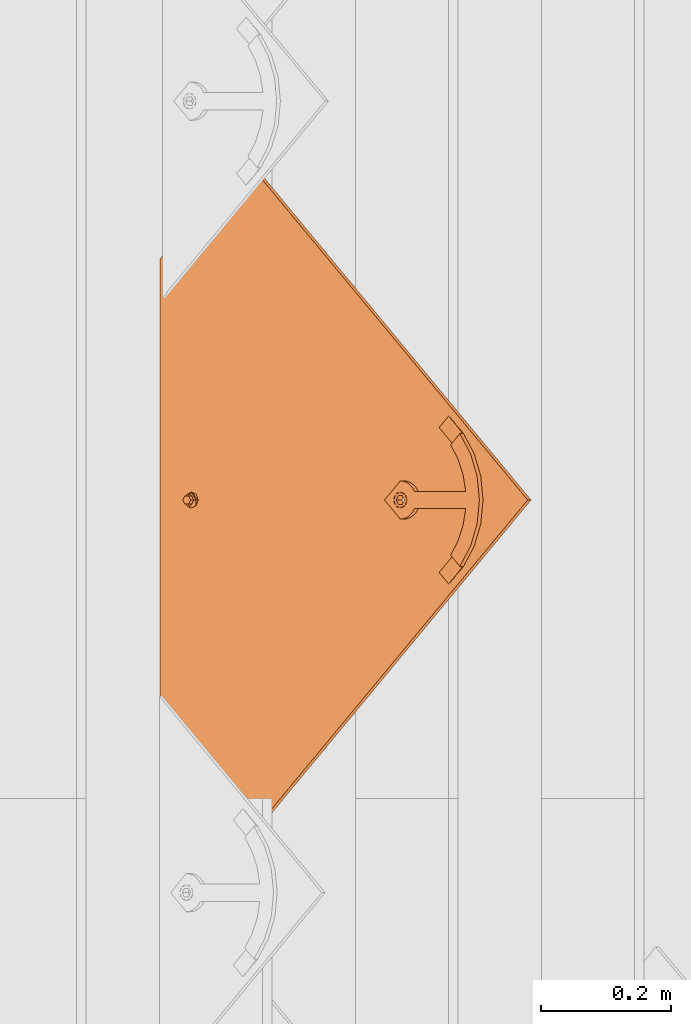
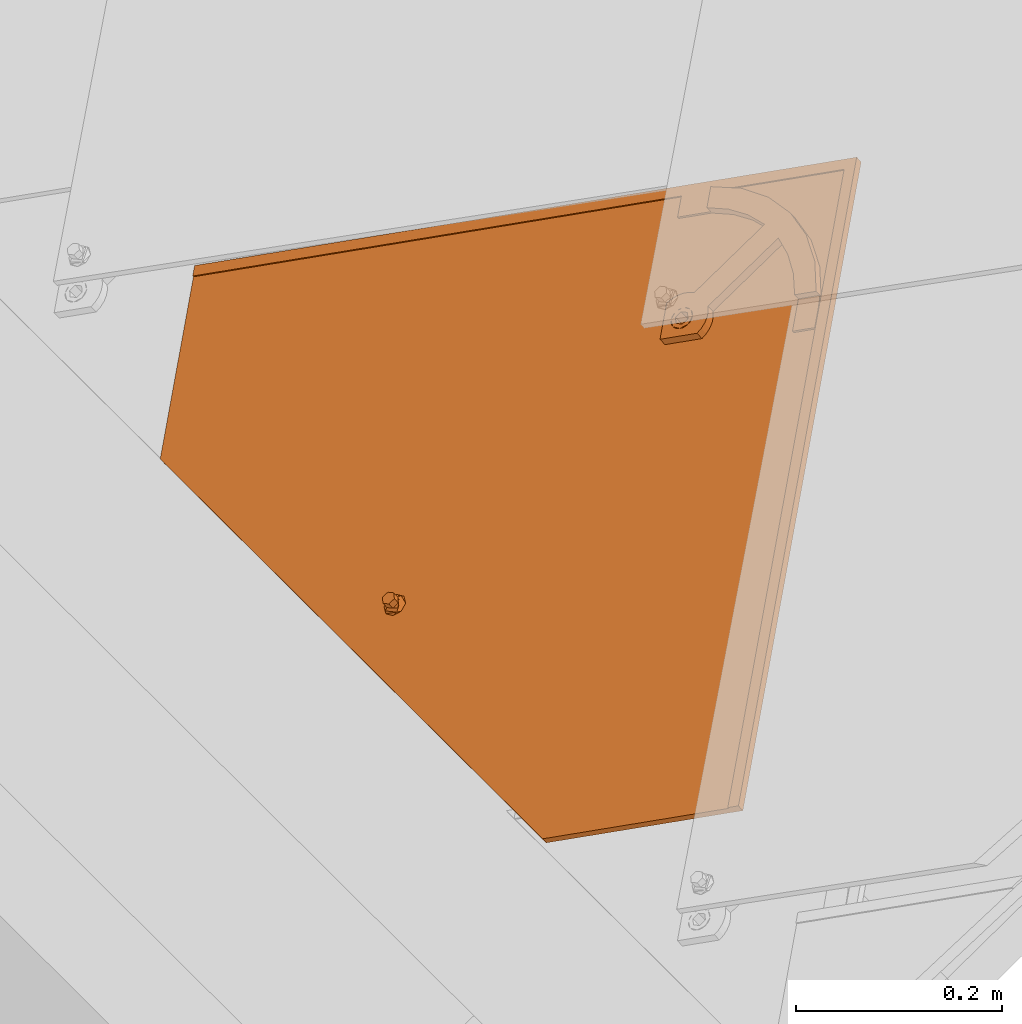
# One storey, part 9 of 133: 1 proxy.
"""IFC2X3 building model written with IfcOpenShell, lengths in millimetres."""

import ifcopenshell
import ifcopenshell.guid

model = None  # the IFC model being written
_history = None  # IfcOwnerHistory: only IFC2X3 demands one
_inside = {}  # id of a spatial element -> (the spatial element, [elements in it])
_under = {}  # id of a project, library or spatial element -> (it, [spatial elements below it])
_declared = {}  # id of a project -> (the project, [libraries it declares])
_typed = {}  # id of a type object -> (the type object, [elements of that type])
_made_of = {}  # id of a material, layer set ... -> (it, [elements and type objects made of it])


def new_model(schema):
    """Start an empty IFC model of exactly this schema.

    Asked for "IFC4X3", IfcOpenShell would pick the latest addendum, in which some entities
    have other attributes; the version numbers below select the first issue.
    IFC2X3 requires an IfcOwnerHistory on every rooted entity: one is made here for all.
    """
    global model, _history
    if schema == "IFC4X3":
        model = ifcopenshell.file(schema_version=(4, 3, 0, 0))
    else:
        model = ifcopenshell.file(schema=schema)
    _inside.clear()
    _under.clear()
    _declared.clear()
    _typed.clear()
    _made_of.clear()
    _history = None
    if model.schema == "IFC2X3":
        org = make("IfcOrganization", Name="unknown")
        user = make(
            "IfcPersonAndOrganization",
            ThePerson=make("IfcPerson", FamilyName="unknown"),
            TheOrganization=org,
        )
        app = make(
            "IfcApplication",
            ApplicationDeveloper=org,
            Version="unknown",
            ApplicationFullName="unknown",
            ApplicationIdentifier="unknown",
        )
        _history = make(
            "IfcOwnerHistory",
            OwningUser=user,
            OwningApplication=app,
            ChangeAction="ADDED",
            CreationDate=0,
        )
    return model


def make(cls, **values):
    """One entity of the class cls with the attributes given. An attribute that is None is left unset."""
    return model.create_entity(
        cls, **{name: value for name, value in values.items() if value is not None}
    )


def entity(cls, *values):
    """Any entity or typed value of the class cls, its attributes in the order of the schema. None: left unset."""
    e = model.create_entity(cls)
    for i, value in enumerate(values):
        if value is not None:
            e[i] = value
    return e


def rooted(cls, **values):
    """An entity with a GlobalId (a new one), such as an element, a storey or a relation."""
    return make(cls, GlobalId=ifcopenshell.guid.new(), OwnerHistory=_history, **values)


def si_unit(unit_type, name, prefix=None):
    """IfcSIUnit, for example si_unit("LENGTHUNIT", "METRE", prefix="MILLI")."""
    return make("IfcSIUnit", UnitType=unit_type, Prefix=prefix, Name=name)


def converted_unit(unit_type, name, factor, base, dimensions=None, offset=None):
    """IfcConversionBasedUnit, such as the inch: factor (a typed value) times the base unit."""
    return make(
        "IfcConversionBasedUnit"
        if offset is None
        else "IfcConversionBasedUnitWithOffset",
        ConversionOffset=offset,
        Dimensions=None
        if dimensions is None
        else entity("IfcDimensionalExponents", *dimensions),
        UnitType=unit_type,
        Name=name,
        ConversionFactor=make(
            "IfcMeasureWithUnit", ValueComponent=factor, UnitComponent=base
        ),
    )


def derived_unit(unit_type, elements):
    """IfcDerivedUnit: a product of units, each with its exponent."""
    return make(
        "IfcDerivedUnit",
        Elements=[
            make("IfcDerivedUnitElement", Unit=unit, Exponent=power)
            for unit, power in elements
        ],
        UnitType=unit_type,
    )


def assignment(units):
    """IfcUnitAssignment: the units of a project."""
    return None if units is None else make("IfcUnitAssignment", Units=units)


def point(xyz):
    """IfcCartesianPoint."""
    return None if xyz is None else make("IfcCartesianPoint", Coordinates=xyz)


def direction(xyz):
    """IfcDirection."""
    return None if xyz is None else make("IfcDirection", DirectionRatios=xyz)


def frame(location, z_axis=None, x_axis=None):
    """IfcAxis2Placement3D, a coordinate frame: its origin and axes. An axis left out is left unset."""
    return make(
        "IfcAxis2Placement3D",
        Location=point(location),
        Axis=direction(z_axis),
        RefDirection=direction(x_axis),
    )


def origin():
    """The frame at (0, 0, 0) with its axes left unset."""
    return frame((0.0, 0.0, 0.0))


def place(relative_to, where):
    """IfcLocalPlacement: puts the frame where relative to a parent placement (None: the world)."""
    return make(
        "IfcLocalPlacement", PlacementRelTo=relative_to, RelativePlacement=where
    )


def context(
    kind, dimensions, precision=None, world=None, true_north=None, identifier=None
):
    """IfcGeometricRepresentationContext, for example the 3D "Model" context."""
    return make(
        "IfcGeometricRepresentationContext",
        ContextIdentifier=identifier,
        ContextType=kind,
        CoordinateSpaceDimension=dimensions,
        Precision=precision,
        WorldCoordinateSystem=world,
        TrueNorth=true_north,
    )


def subcontext(parent, identifier, kind, view, scale=None):
    """IfcGeometricRepresentationSubContext, for example "Body" below "Model"."""
    return make(
        "IfcGeometricRepresentationSubContext",
        ContextIdentifier=identifier,
        ContextType=kind,
        ParentContext=parent,
        TargetScale=scale,
        TargetView=view,
    )


def project(units=None, contexts=None):
    """IfcProject with its units and contexts."""
    return rooted(
        "IfcProject",
        Name="project",
        RepresentationContexts=contexts,
        UnitsInContext=assignment(units),
    )


def spatial(cls, under=None, at=None, **own):
    """A site, building, storey or space (cls), placed at a placement, below another one or the project."""
    s = rooted(cls, ObjectPlacement=at, **own)
    if under is not None:
        _under.setdefault(under.id(), (under, []))[1].append(s)
    return s


def faces_of(points, faces, orient=None, outer=None):
    """IfcFace entities. A face is a list of loops; a loop is a list of indices into points, from 0.

    orient and outer hold one flag for each loop. By default every Orientation is true, the
    first loop of a face is its IfcFaceOuterBound and the others are IfcFaceBound.
    """
    made = []
    for i, loops in enumerate(faces):
        bounds = []
        for j, loop in enumerate(loops):
            is_outer = j == 0 if outer is None else outer[i][j]
            bounds.append(
                make(
                    "IfcFaceOuterBound" if is_outer else "IfcFaceBound",
                    Bound=make("IfcPolyLoop", Polygon=[points[k] for k in loop]),
                    Orientation=True if orient is None else orient[i][j],
                )
            )
        made.append(make("IfcFace", Bounds=bounds))
    return made


def faceted_brep(points, faces, orient=None, outer=None, voids=None):
    """IfcFacetedBrep: a solid bounded by flat faces; with voids (closed shells), ...WithVoids."""
    shared = [point(p) for p in points]
    hull = make("IfcClosedShell", CfsFaces=faces_of(shared, faces, orient, outer))
    if voids is None:
        return make("IfcFacetedBrep", Outer=hull)
    return make(
        "IfcFacetedBrepWithVoids",
        Outer=hull,
        Voids=[
            make(cls, CfsFaces=faces_of(shared, fs, o, b)) for cls, fs, o, b in voids
        ],
    )


def shape(context_of_items, identifier, shape_type, items):
    """IfcShapeRepresentation: the items that make up one representation, for example the "Body"."""
    return make(
        "IfcShapeRepresentation",
        ContextOfItems=context_of_items,
        RepresentationIdentifier=identifier,
        RepresentationType=shape_type,
        Items=items,
    )


def source(mapping_origin, context_of_items, identifier, shape_type, items):
    """IfcRepresentationMap: a shape defined once, which mapped items show again and again."""
    return make(
        "IfcRepresentationMap",
        MappingOrigin=mapping_origin,
        MappedRepresentation=shape(context_of_items, identifier, shape_type, items),
    )


def transform(
    local_origin,
    x_axis=None,
    y_axis=None,
    z_axis=None,
    scale=None,
    scale2=None,
    scale3=None,
    uniform=True,
):
    """IfcCartesianTransformationOperator3D, or its non-uniform kind. x_axis, y_axis, z_axis: its Axis1, 2, 3."""
    if uniform:
        return make(
            "IfcCartesianTransformationOperator3D",
            Axis1=direction(x_axis),
            Axis2=direction(y_axis),
            LocalOrigin=point(local_origin),
            Scale=scale,
            Axis3=direction(z_axis),
        )
    return make(
        "IfcCartesianTransformationOperator3DnonUniform",
        Axis1=direction(x_axis),
        Axis2=direction(y_axis),
        LocalOrigin=point(local_origin),
        Scale=scale,
        Axis3=direction(z_axis),
        Scale2=scale2,
        Scale3=scale3,
    )


def mapped(mapping_source, mapping_target):
    """IfcMappedItem: shows the shape of a source again, moved by a transform."""
    return make(
        "IfcMappedItem", MappingSource=mapping_source, MappingTarget=mapping_target
    )


def material(Name=None, Category=None):
    """IfcMaterial."""
    return make("IfcMaterial", Name=Name, Category=Category)


def material_list(materials):
    """IfcMaterialList."""
    return make("IfcMaterialList", Materials=materials)


def made_of(thing, what):
    """Note that an element or type object is made of a material, layer set ...; save() writes the relation."""
    if what is not None:
        _made_of.setdefault(what.id(), (what, []))[1].append(thing)
    return thing


def type_object(cls, material=None, **own):
    """A type object (cls), such as IfcWallType, which elements share."""
    return made_of(rooted(cls, **own), material)


def type_shapes(of_type, sources):
    """Give a type object the sources (RepresentationMaps) that its elements show as mapped items."""
    of_type.RepresentationMaps = sources


def element(
    cls,
    number,
    at=None,
    inside=None,
    cuts=None,
    type_object=None,
    material=None,
    context=None,
    identifier="Body",
    shape_type=None,
    held_by="IfcProductDefinitionShape",
    body=None,
    shapes=None,
    **own,
):
    """One element of the class cls, such as IfcWall. Its Tag is "e" and its number.

    at: its placement. inside: the storey or other place that contains it. cuts: it is an
    opening in that element (IfcRelVoidsElement). A single representation is given by context,
    identifier, shape_type and body (its items); several are given by shapes. held_by: the class
    of the entity that holds the representations. save() writes the other relations.
    """
    e = rooted(cls, Tag="e%d" % number, ObjectPlacement=at, **own)
    if body is not None:
        shapes = [shape(context, identifier, shape_type, body)]
    if shapes is not None:
        e.Representation = make(held_by, Representations=shapes)
    if inside is not None:
        _inside.setdefault(inside.id(), (inside, []))[1].append(e)
    if cuts is not None:
        rooted(
            "IfcRelVoidsElement", RelatingBuildingElement=cuts, RelatedOpeningElement=e
        )
    if type_object is not None:
        _typed.setdefault(type_object.id(), (type_object, []))[1].append(e)
    return made_of(e, material)


def aggregate(whole, parts):
    """IfcRelAggregates: a whole, such as a stair, and the parts it consists of."""
    return rooted("IfcRelAggregates", RelatingObject=whole, RelatedObjects=parts)


def save(model, path):
    """Write the relations noted so far, then the file.

    IfcRelAggregates (storeys below a building ...), IfcRelContainedInSpatialStructure (elements
    in a storey), IfcRelDefinesByType, IfcRelAssociatesMaterial and IfcRelDeclares: one each for
    every whole, place, type object, material and project.
    """
    for whole, parts in _under.values():
        aggregate(whole, parts)
    for where, things in _inside.values():
        rooted(
            "IfcRelContainedInSpatialStructure",
            RelatedElements=things,
            RelatingStructure=where,
        )
    for kind, things in _typed.values():
        rooted("IfcRelDefinesByType", RelatedObjects=things, RelatingType=kind)
    for what, things in _made_of.values():
        rooted("IfcRelAssociatesMaterial", RelatedObjects=things, RelatingMaterial=what)
    for by, libraries in _declared.values():
        rooted("IfcRelDeclares", RelatingContext=by, RelatedDefinitions=libraries)
    model.write(path)


model = new_model("IFC2X3")

# Units and contexts
model_context = context("Model", 3, precision=0.01, world=origin(), true_north=direction((6.12303176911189e-17, 1.0)))
body_context = subcontext(model_context, "Body", "Model", "MODEL_VIEW")
ifc_project = project(units=[si_unit("LENGTHUNIT", "METRE", prefix="MILLI"), si_unit("AREAUNIT", "SQUARE_METRE"), si_unit("VOLUMEUNIT", "CUBIC_METRE"), converted_unit("PLANEANGLEUNIT", "DEGREE", entity("IfcRatioMeasure", 0.0174532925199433), si_unit("PLANEANGLEUNIT", "RADIAN"), dimensions=[0, 0, 0, 0, 0, 0, 0]), si_unit("MASSUNIT", "GRAM", prefix="KILO"), derived_unit("MASSDENSITYUNIT", [(si_unit("MASSUNIT", "GRAM", prefix="KILO"), 1), (si_unit("LENGTHUNIT", "METRE"), -3)]), si_unit("TIMEUNIT", "SECOND"), si_unit("FREQUENCYUNIT", "HERTZ"), si_unit("THERMODYNAMICTEMPERATUREUNIT", "DEGREE_CELSIUS"), derived_unit("THERMALTRANSMITTANCEUNIT", [(si_unit("MASSUNIT", "GRAM", prefix="KILO"), 1), (si_unit("THERMODYNAMICTEMPERATUREUNIT", "KELVIN"), -1), (si_unit("TIMEUNIT", "SECOND"), -3)]), derived_unit("VOLUMETRICFLOWRATEUNIT", [(si_unit("LENGTHUNIT", "METRE"), 3), (si_unit("TIMEUNIT", "SECOND"), -1)]), si_unit("ELECTRICCURRENTUNIT", "AMPERE"), si_unit("ELECTRICVOLTAGEUNIT", "VOLT"), si_unit("POWERUNIT", "WATT"), si_unit("FORCEUNIT", "NEWTON", prefix="KILO"), si_unit("ILLUMINANCEUNIT", "LUX"), si_unit("LUMINOUSFLUXUNIT", "LUMEN"), si_unit("LUMINOUSINTENSITYUNIT", "CANDELA"), derived_unit("USERDEFINED", [(si_unit("MASSUNIT", "GRAM", prefix="KILO"), -1), (si_unit("LENGTHUNIT", "METRE"), -2), (si_unit("TIMEUNIT", "SECOND"), 3), (si_unit("LUMINOUSFLUXUNIT", "LUMEN"), 1)]), derived_unit("LINEARVELOCITYUNIT", [(si_unit("LENGTHUNIT", "METRE"), 1), (si_unit("TIMEUNIT", "SECOND"), -1)]), si_unit("PRESSUREUNIT", "PASCAL"), derived_unit("USERDEFINED", [(si_unit("LENGTHUNIT", "METRE"), -2), (si_unit("MASSUNIT", "GRAM", prefix="KILO"), 1), (si_unit("TIMEUNIT", "SECOND"), -2)])], contexts=[model_context])

# Site, building, storey
site_placement = place(None, origin())
site = spatial("IfcSite", under=ifc_project, at=site_placement, Name="Default", CompositionType="ELEMENT")
building_placement = place(site_placement, origin())
building = spatial("IfcBuilding", under=site, at=building_placement, CompositionType="ELEMENT")
storey_placement = place(building_placement, origin())
storey = spatial("IfcBuildingStorey", under=building, at=storey_placement, Name="Level 1", CompositionType="ELEMENT", Elevation=0.0)

# Proxy
ifc_material_1 = material(Name="Rubber - Sunstyle - Black")
ifc_material_2 = material(Name="Glass - Sunstyle - Tainted Black")
ifc_material_list_1 = material_list([ifc_material_1, ifc_material_2])
ifc_material_list_2 = material_list([ifc_material_1, ifc_material_2])
building_element_proxy_type = type_object("IfcBuildingElementProxyType", Name="Shingle Bottom - Black", PredefinedType="NOTDEFINED", material=ifc_material_list_2)
shared_shape = source(origin(), body_context, "Body", "Brep", [
    faceted_brep([(0.0, -1.79273515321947, -4.01619789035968), (-5.7742028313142, -5.12600528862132, -3.96037390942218), (-5.77420283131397, -4.75769619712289, 18.0314954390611), (0.0, -1.42442606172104, 17.9756714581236), (-5.77420283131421, -11.792545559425, -3.84872594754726), (-5.77420283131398, -11.4242364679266, 18.143143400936), (0.0, -15.1258156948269, -3.79290196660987), (0.0, -14.7575066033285, 18.1989673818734), (5.77420283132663, -11.7925455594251, -3.84872594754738), (5.77420283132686, -11.4242364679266, 18.1431434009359), (5.77420283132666, -5.12600528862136, -3.96037390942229), (5.77420283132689, -4.75769619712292, 18.031495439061), (-8.60370416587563, -16.6934641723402, 18.2313898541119), (0.0, -20.2567354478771, 18.2910657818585), (-12.1674751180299, -8.09096633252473, 18.0873194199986), (-8.60370416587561, 0.511531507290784, 17.9432489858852), (0.0, 4.07480278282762, 17.8835730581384), (8.60370416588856, 0.511531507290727, 17.9432489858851), (12.1674751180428, -8.09096633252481, 18.0873194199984), (8.60370416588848, -16.6934641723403, 18.2313898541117), (-11.4302228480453, -6.71737066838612, 20.4858706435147), (-9.77051349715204, -8.02009729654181, 22.3189355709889), (0.0, -0.706876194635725, 22.9603444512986), (0.0, 0.533621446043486, 22.3799978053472), (0.0, 2.69117229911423, 21.3706227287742), (-6.32324569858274, -4.35709193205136, 23.021476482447), (-6.32324569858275, -11.6575234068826, 23.1437405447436), (0.0, -18.7571148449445, 21.7298281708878), (0.0, -15.3077391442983, 23.2048725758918), (10.9851748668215, -11.808022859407, 20.3827540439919), (10.123850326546, -8.02413622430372, 22.0777687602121), (6.32324569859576, -4.3570919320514, 23.0214764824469), (6.32324569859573, -11.6575234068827, 23.1437405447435), (-6.32324569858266, -11.5234949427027, 31.146628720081), (0.0, -15.1737106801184, 31.2077607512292), (0.0, -7.8732792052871, 31.0854966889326), (-6.32324569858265, -4.22306346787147, 31.0243646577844), (6.32324569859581, -11.5234949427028, 31.1466287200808), (6.32324569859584, -4.22306346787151, 31.0243646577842), (0.0, -0.57284773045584, 30.963232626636), (0.0, -8.45927542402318, -3.90454992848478)], [[[0, 1, 2, 3]], [[1, 4, 5, 2]], [[4, 6, 7, 5]], [[6, 8, 9, 7]], [[8, 10, 11, 9]], [[10, 0, 3, 11]], [[12, 7, 13]], [[7, 12, 5]], [[14, 5, 12]], [[5, 14, 2]], [[15, 2, 14]], [[3, 2, 15]], [[15, 16, 3]], [[16, 17, 3]], [[11, 3, 17]], [[11, 17, 18]], [[9, 11, 18]], [[18, 19, 9]], [[7, 9, 19]], [[19, 13, 7]], [[15, 20, 16]], [[21, 22, 23, 24]], [[22, 21, 25]], [[20, 14, 12]], [[15, 14, 20]], [[25, 21, 26]], [[20, 24, 16]], [[12, 13, 27]], [[12, 27, 20]], [[21, 28, 26]], [[21, 27, 28]], [[20, 21, 24]], [[20, 27, 21]], [[19, 29, 13]], [[30, 23, 31]], [[30, 28, 27]], [[24, 23, 30]], [[29, 27, 13]], [[19, 18, 29]], [[29, 30, 27]], [[29, 17, 24]], [[24, 17, 16]], [[31, 32, 30]], [[23, 22, 31]], [[28, 30, 32]], [[29, 24, 30]], [[29, 18, 17]], [[33, 34, 35]], [[35, 36, 33]], [[34, 37, 35]], [[38, 35, 37]], [[35, 38, 39]], [[35, 39, 36]], [[40, 6, 4]], [[4, 1, 40]], [[1, 0, 40]], [[40, 8, 6]], [[0, 10, 40]], [[8, 40, 10]], [[22, 25, 36, 39]], [[25, 26, 33, 36]], [[26, 28, 34, 33]], [[28, 32, 37, 34]], [[32, 31, 38, 37]], [[31, 22, 39, 38]]]),
    faceted_brep([(0.0, 372.824876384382, 20.3195200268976), (0.0, 377.324245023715, 20.2441667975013), (-8.60370416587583, 376.388147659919, 20.2598440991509), (8.60370416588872, 376.388147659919, 20.2598440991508), (6.64022859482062, 381.157445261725, 20.1799702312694), (12.1674751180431, 384.990645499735, 20.1157736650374), (6.64022859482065, 388.823845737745, 20.0515770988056), (8.6037041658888, 393.59314333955, 19.9717032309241), (0.0, 392.657045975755, 19.9873805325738), (0.0, 397.156414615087, 19.9120273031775), (-8.60370416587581, 393.59314333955, 19.9717032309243), (-6.64022859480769, 388.823845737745, 20.0515770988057), (-12.1674751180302, 384.990645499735, 20.1157736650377), (-6.6402285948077, 381.157445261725, 20.1799702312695), (-6.6402282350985, 388.555922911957, 4.05382046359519), (0.0, 392.389122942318, 3.98962390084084), (-6.64022823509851, 380.889522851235, 4.18221358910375), (0.0, 377.056322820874, 4.24641015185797), (6.64022823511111, 380.889522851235, 4.18221358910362), (6.64022823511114, 388.555922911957, 4.05382046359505), (-8.603704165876, 376.12022504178, 4.26208746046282), (0.0, 372.556953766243, 4.32176338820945), (-12.1674751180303, 384.722722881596, 4.11801702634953), (-8.60370416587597, 393.325220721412, 3.97394659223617), (0.0, 396.888491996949, 3.91427066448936), (8.60370416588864, 393.325220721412, 3.97394659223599), (12.1674751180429, 384.722722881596, 4.11801702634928), (8.60370416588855, 376.12022504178, 4.26208746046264)], [[[0, 1, 2]], [[1, 0, 3]], [[3, 4, 1]], [[4, 3, 5]], [[6, 4, 5]], [[5, 7, 6]], [[7, 8, 6]], [[8, 7, 9]], [[8, 9, 10]], [[10, 11, 8]], [[12, 11, 10]], [[2, 13, 12]], [[12, 13, 11]], [[13, 2, 1]], [[8, 11, 14, 15]], [[11, 13, 16, 14]], [[13, 1, 17, 16]], [[1, 4, 18, 17]], [[4, 6, 19, 18]], [[6, 8, 15, 19]], [[20, 17, 21]], [[17, 20, 16]], [[22, 16, 20]], [[14, 16, 22]], [[23, 14, 22]], [[15, 14, 23]], [[23, 24, 15]], [[24, 25, 15]], [[19, 15, 25]], [[19, 25, 26]], [[26, 18, 19]], [[26, 27, 18]], [[17, 18, 27]], [[27, 21, 17]], [[24, 23, 10, 9]], [[10, 23, 22, 12]], [[20, 21, 0, 2]], [[20, 2, 12, 22]], [[21, 27, 3, 0]], [[3, 27, 26, 5]], [[25, 24, 9, 7]], [[25, 7, 5, 26]]]),
    faceted_brep([(518.247351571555, 79.9143812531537, 14.965257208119), (526.732038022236, 88.3990677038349, 14.8231598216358), (526.732038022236, 88.4241854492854, 16.3229495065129), (518.247351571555, 79.9394989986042, 16.4650468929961), (0.000322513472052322, 598.016093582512, 6.28834266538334), (-518.246706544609, 79.9143812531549, 14.9652572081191), (-526.73139299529, 88.3990677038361, 14.8231598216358), (0.000322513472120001, 614.983087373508, 6.00418773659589), (0.000322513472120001, 615.008205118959, 7.50397742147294), (-526.731392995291, 88.4241854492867, 16.3229495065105), (-518.246706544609, 79.9394989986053, 16.465046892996), (0.000322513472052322, 598.041211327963, 7.78813235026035)], [[[0, 1, 2, 3]], [[1, 0, 4, 5, 6, 7]], [[2, 1, 7, 8]], [[3, 2, 8, 9, 10, 11]], [[0, 3, 11, 4]], [[5, 10, 9, 6]], [[8, 7, 6, 9]], [[4, 11, 10, 5]]]),
    faceted_brep([(0.00032251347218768, 614.983087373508, 6.00418773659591), (-2.87802047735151, 396.187349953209, 9.66847193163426), (0.227808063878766, 396.596182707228, 9.6616250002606), (-5.77219193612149, 394.988712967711, 9.68854611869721), (3.3336366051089, 396.187349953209, 9.66847193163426), (6.22780806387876, 394.988712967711, 9.6885461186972), (8.71308943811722, 393.081956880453, 9.72047953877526), (10.620112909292, 390.59702396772, 9.76209598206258), (-8.25747331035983, 393.081956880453, 9.72047953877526), (-10.1644967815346, 390.59702396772, 9.76209598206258), (-11.3633018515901, 387.703258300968, 9.81055935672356), (-526.731392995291, 88.3990677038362, 14.8231598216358), (11.8189179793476, 387.703258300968, 9.81055935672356), (526.732038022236, 88.3990677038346, 14.8231598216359), (-11.7721919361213, 384.597865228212, 9.86256696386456), (-11.3633018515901, 381.492472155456, 9.91457457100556), (-10.1644967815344, 378.598706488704, 9.96303794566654), (-370.355016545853, -67.9334607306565, 17.4413406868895), (-8.25747331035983, 376.113773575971, 10.0046543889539), (-5.65685424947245, -2.29422365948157, 16.3420467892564), (-6.92820323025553, -3.95084560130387, 16.3697910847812), (-7.72740661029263, -5.88002271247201, 16.4021000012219), (-8.0, -7.95028476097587, 16.4367717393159), (-7.72740661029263, -10.0205468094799, 16.4714434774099), (-6.9282032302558, -11.9497239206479, 16.5037523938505), (-5.65685424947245, -13.6063458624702, 16.5314966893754), (-4.0, -14.8775165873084, 16.5527856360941), (-2.07055236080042, -15.676607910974, 16.5661684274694), (0.0, -15.9491630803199, 16.5707330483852), (370.355661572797, -67.9334607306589, 17.4413406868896), (10.620112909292, 378.598706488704, 9.96303794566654), (8.71308943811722, 376.11377357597, 10.0046543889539), (5.65685424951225, -2.29422365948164, 16.3420467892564), (6.92820323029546, -3.9508456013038, 16.3697910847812), (7.72740661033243, -5.88002271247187, 16.4021000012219), (8.0, -7.9502847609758, 16.4367717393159), (7.72740661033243, -10.0205468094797, 16.4714434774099), (6.92820323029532, -11.9497239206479, 16.5037523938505), (5.65685424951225, -13.6063458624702, 16.5314966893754), (4.0, -14.8775165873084, 16.5527856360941), (2.07055236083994, -15.676607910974, 16.5661684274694), (-5.77219193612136, 374.207017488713, 10.0365878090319), (-4.0, -1.02305293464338, 16.3207578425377), (-2.87802047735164, 373.008380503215, 10.0566619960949), (-2.07055236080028, -0.223961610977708, 16.3073750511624), (0.227808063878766, 372.599547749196, 10.0635089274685), (0.0, 0.0485935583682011, 16.3028104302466), (2.07055236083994, -0.223961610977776, 16.3073750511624), (3.3336366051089, 373.008380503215, 10.0566619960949), (4.0, -1.02305293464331, 16.3207578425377), (6.22780806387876, 374.207017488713, 10.0365878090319), (12.2278080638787, 384.597865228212, 9.86256696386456), (11.8189179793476, 381.492472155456, 9.91457457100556), (-370.355016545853, -68.059049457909, 9.94239226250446), (-6.92820323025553, -4.07643432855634, 8.87084266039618), (-7.72740661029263, -6.00561143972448, 8.90315157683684), (-8.0, -8.07587348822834, 8.93782331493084), (-7.72740661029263, -10.1461355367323, 8.97249505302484), (-6.9282032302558, -12.0753126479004, 9.00480396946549), (-5.65685424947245, -13.7319345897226, 9.03254826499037), (-5.65685424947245, -2.41981238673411, 8.8430983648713), (-8.25747331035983, 375.988184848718, 2.50570596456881), (-4.0, -15.0031053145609, 9.05383721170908), (-2.07055236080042, -15.8021966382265, 9.06722000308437), (0.0, -16.0747518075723, 9.07178462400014), (370.355661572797, -68.0590494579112, 9.9423922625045), (-10.1644967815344, 378.473117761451, 2.46408952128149), (-526.731392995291, 88.2734789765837, 7.32421139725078), (-11.3633018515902, 381.366883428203, 2.41562614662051), (-11.7721919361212, 384.472276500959, 2.36361853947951), (-11.3633018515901, 387.577669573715, 2.3116109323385), (0.00032251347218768, 614.857498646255, -1.49476068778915), (-10.1644967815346, 390.471435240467, 2.26314755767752), (-8.25747331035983, 392.956368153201, 2.22153111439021), (-5.77219193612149, 394.863124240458, 2.18959769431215), (-2.87802047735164, 396.061761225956, 2.16952350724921), (0.227808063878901, 396.470593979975, 2.16267657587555), (3.3336366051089, 396.061761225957, 2.1695235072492), (6.22780806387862, 394.863124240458, 2.18959769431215), (8.71308943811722, 392.956368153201, 2.2215311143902), (10.620112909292, 390.471435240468, 2.26314755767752), (11.8189179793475, 387.577669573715, 2.31161093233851), (526.732038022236, 88.2734789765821, 7.32421139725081), (12.2278080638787, 384.472276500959, 2.3636185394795), (10.620112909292, 378.473117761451, 2.46408952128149), (11.8189179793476, 381.366883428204, 2.41562614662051), (-5.77219193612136, 374.08142876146, 2.53763938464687), (-4.0, -1.14864166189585, 8.8218094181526), (-2.87802047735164, 372.882791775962, 2.55771357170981), (-2.07055236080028, -0.349550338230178, 8.8084266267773), (0.227808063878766, 372.473959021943, 2.56456050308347), (0.0, -0.0769951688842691, 8.80386200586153), (2.07055236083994, -0.349550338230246, 8.8084266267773), (3.3336366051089, 372.882791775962, 2.55771357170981), (4.0, -1.14864166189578, 8.8218094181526), (6.22780806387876, 374.081428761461, 2.53763938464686), (5.65685424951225, -2.41981238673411, 8.8430983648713), (8.71308943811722, 375.988184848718, 2.50570596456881), (6.92820323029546, -4.07643432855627, 8.87084266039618), (7.72740661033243, -6.00561143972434, 8.90315157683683), (8.0, -8.07587348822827, 8.93782331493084), (7.72740661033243, -10.1461355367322, 8.97249505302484), (6.92820323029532, -12.0753126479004, 9.00480396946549), (5.65685424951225, -13.7319345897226, 9.03254826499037), (4.0, -15.0031053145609, 9.05383721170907), (2.07055236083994, -15.8021966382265, 9.06722000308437)], [[[0, 1, 2]], [[1, 0, 3]], [[0, 2, 4]], [[4, 5, 0]], [[5, 6, 0]], [[0, 6, 7]], [[8, 3, 0]], [[9, 8, 0]], [[9, 0, 10]], [[10, 0, 11]], [[12, 0, 7]], [[12, 13, 0]], [[11, 14, 10]], [[14, 11, 15]], [[16, 15, 11]], [[11, 17, 16]], [[16, 17, 18]], [[19, 18, 17]], [[19, 17, 20]], [[20, 17, 21]], [[22, 21, 17]], [[22, 17, 23]], [[24, 23, 17]], [[17, 25, 24]], [[26, 25, 17]], [[27, 26, 17]], [[17, 28, 27]], [[28, 17, 29]], [[29, 13, 30]], [[29, 30, 31]], [[29, 31, 32]], [[32, 33, 29]], [[33, 34, 29]], [[35, 29, 34]], [[29, 35, 36]], [[36, 37, 29]], [[29, 37, 38]], [[38, 39, 29]], [[40, 28, 29]], [[39, 40, 29]], [[41, 18, 19]], [[42, 41, 19]], [[42, 43, 41]], [[44, 43, 42]], [[44, 45, 43]], [[46, 45, 44]], [[47, 45, 46]], [[48, 45, 47]], [[49, 48, 47]], [[49, 50, 48]], [[32, 50, 49]], [[32, 31, 50]], [[12, 51, 13]], [[52, 13, 51]], [[13, 52, 30]], [[53, 54, 55]], [[53, 55, 56]], [[56, 57, 53]], [[57, 58, 53]], [[53, 58, 59]], [[60, 54, 53]], [[61, 60, 53]], [[59, 62, 53]], [[62, 63, 53]], [[63, 64, 53]], [[53, 64, 65]], [[66, 61, 53]], [[66, 53, 67]], [[68, 66, 67]], [[69, 68, 67]], [[69, 67, 70]], [[67, 71, 70]], [[72, 70, 71]], [[73, 72, 71]], [[71, 74, 73]], [[74, 71, 75]], [[75, 71, 76]], [[77, 76, 71]], [[77, 71, 78]], [[79, 78, 71]], [[71, 80, 79]], [[80, 71, 81]], [[71, 82, 81]], [[83, 81, 82]], [[84, 82, 65]], [[85, 82, 84]], [[82, 85, 83]], [[86, 60, 61]], [[86, 87, 60]], [[88, 87, 86]], [[89, 87, 88]], [[90, 89, 88]], [[90, 91, 89]], [[92, 91, 90]], [[92, 90, 93]], [[94, 92, 93]], [[93, 95, 94]], [[94, 95, 96]], [[97, 96, 95]], [[96, 97, 65]], [[84, 65, 97]], [[98, 96, 65]], [[99, 98, 65]], [[99, 65, 100]], [[101, 100, 65]], [[102, 101, 65]], [[103, 102, 65]], [[104, 103, 65]], [[105, 104, 65]], [[65, 64, 105]], [[11, 0, 71, 67]], [[17, 11, 67, 53]], [[13, 29, 65, 82]], [[0, 13, 82, 71]], [[22, 56, 55, 21]], [[21, 55, 54, 20]], [[42, 19, 60, 87]], [[60, 19, 20, 54]], [[44, 42, 87, 89]], [[44, 89, 91, 46]], [[46, 91, 92, 47]], [[47, 92, 94, 49]], [[33, 32, 96, 98]], [[96, 32, 49, 94]], [[34, 33, 98, 99]], [[34, 99, 100, 35]], [[35, 100, 101, 36]], [[36, 101, 102, 37]], [[39, 38, 103, 104]], [[103, 38, 37, 102]], [[40, 39, 104, 105]], [[40, 105, 64, 28]], [[28, 64, 63, 27]], [[27, 63, 62, 26]], [[24, 25, 59, 58]], [[59, 25, 26, 62]], [[23, 24, 58, 57]], [[23, 57, 56, 22]], [[14, 69, 70, 10]], [[10, 70, 72, 9]], [[3, 8, 73, 74]], [[73, 8, 9, 72]], [[1, 3, 74, 75]], [[1, 75, 76, 2]], [[2, 76, 77, 4]], [[4, 77, 78, 5]], [[7, 6, 79, 80]], [[79, 6, 5, 78]], [[12, 7, 80, 81]], [[12, 81, 83, 51]], [[51, 83, 85, 52]], [[52, 85, 84, 30]], [[50, 31, 97, 95]], [[97, 31, 30, 84]], [[48, 50, 95, 93]], [[48, 93, 90, 45]], [[45, 90, 88, 43]], [[43, 88, 86, 41]], [[16, 18, 61, 66]], [[41, 86, 61, 18]], [[68, 15, 16, 66]], [[15, 68, 69, 14]], [[29, 17, 53, 65]]]),
    faceted_brep([(-111.269043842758, 451.472531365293, 11.2429332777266), (-84.9443960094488, 477.793488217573, 10.8021227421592), (-102.027571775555, 494.874268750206, 10.5160621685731), (-108.279973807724, 489.512620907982, 10.6058564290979), (-114.2509690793, 483.839345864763, 10.7008696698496), (-128.946713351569, 469.147722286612, 10.9469178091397), (128.946713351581, 469.147722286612, 10.9469178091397), (114.250969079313, 483.839345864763, 10.7008696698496), (108.279973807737, 489.512620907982, 10.6058564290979), (102.027571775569, 494.874268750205, 10.5160621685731), (84.9431983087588, 477.794685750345, 10.802102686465), (111.269043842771, 451.472531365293, 11.2429332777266), (-8.48528137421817, 393.302959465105, 19.7181805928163), (-18.7041061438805, 407.484939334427, 19.4806677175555), (-23.2046504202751, 402.851933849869, 19.5582590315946), (-10.3923048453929, 390.818026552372, 19.7597970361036), (-6.0, 395.209715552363, 19.6862471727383), (-13.2999999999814, 411.02298750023, 19.4214142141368), (-3.10582854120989, 396.408352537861, 19.6661729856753), (0.0, 396.81718529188, 19.6593260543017), (13.3000000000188, 411.022987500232, 19.4214142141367), (3.10582854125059, 396.408352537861, 19.6661729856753), (6.0, 395.209715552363, 19.6862471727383), (18.7041061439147, 407.484939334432, 19.4806677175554), (8.48528137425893, 393.302959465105, 19.7181805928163), (23.2046504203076, 402.85193384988, 19.5582590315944), (10.3923048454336, 390.818026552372, 19.7597970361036), (26.5842195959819, 397.347783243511, 19.6504398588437), (11.5911099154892, 387.92426088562, 19.8082604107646), (28.6795527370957, 391.238383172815, 19.752757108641), (12.0, 384.818867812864, 19.8602680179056), (29.3894280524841, 384.818867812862, 19.8602680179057), (11.5911099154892, 381.713474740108, 19.9122756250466), (10.3923048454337, 378.819709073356, 19.9607389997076), (8.48528137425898, 376.334776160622, 20.0023554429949), (0.0, 355.433560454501, 20.3523987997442), (6.0, 374.428020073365, 20.034288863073), (3.10582854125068, 373.229383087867, 20.0543630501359), (0.0, 372.820550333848, 20.0612099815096), (-3.10582854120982, 373.229383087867, 20.0543630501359), (-6.0, 374.428020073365, 20.034288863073), (-8.48528137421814, 376.334776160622, 20.0023554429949), (-29.3894280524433, 384.818867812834, 19.8602680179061), (-10.3923048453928, 378.819709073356, 19.9607389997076), (-11.5911099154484, 381.713474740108, 19.9122756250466), (-12.0, 384.818867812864, 19.8602680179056), (-28.67955273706, 391.238383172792, 19.7527571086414), (-11.5911099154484, 387.92426088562, 19.8082604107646), (-26.5842195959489, 397.347783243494, 19.650439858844), (-13.2999999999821, 505.810987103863, 17.833951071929), (13.3000000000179, 505.810987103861, 17.833951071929), (0.0, 531.282600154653, 17.4073649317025), (36.4908407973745, 527.108634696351, 17.4772684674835), (38.7697427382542, 500.996106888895, 17.9145883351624), (71.096085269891, 514.802420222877, 17.6833669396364), (62.9243331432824, 491.592473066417, 18.0720758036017), (102.027571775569, 494.999857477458, 18.0150105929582), (84.9443960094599, 477.919076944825, 18.3010711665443), (-36.4908407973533, 527.108634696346, 17.4772684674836), (-38.7697427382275, 500.996106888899, 17.9145883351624), (-71.0960852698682, 514.802420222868, 17.6833669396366), (-62.9243331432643, 491.592473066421, 18.0720758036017), (-102.027571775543, 494.999857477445, 18.0150105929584), (-84.9443960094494, 477.919076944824, 18.3010711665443), (0.0, 355.266108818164, 10.3538009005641), (0.0, 372.653098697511, 10.0626120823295), (3.10582854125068, 373.06193145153, 10.0557651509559), (-3.10582854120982, 373.06193145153, 10.0557651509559), (6.0, 374.260568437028, 10.0356909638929), (8.48528137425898, 376.167324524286, 10.0037575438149), (29.3894280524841, 384.651416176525, 9.86167011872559), (-6.0, 374.260568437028, 10.0356909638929), (-8.48528137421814, 376.167324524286, 10.0037575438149), (-29.3894280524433, 384.651416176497, 9.86167011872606), (-10.3923048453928, 378.652257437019, 9.96214110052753), (-11.5911099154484, 381.546023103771, 9.91367772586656), (-12.0, 384.651416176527, 9.86167011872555), (-28.67955273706, 391.070931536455, 9.75415920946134), (-11.5911099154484, 387.756809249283, 9.80966251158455), (-26.5842195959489, 397.180331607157, 9.65184195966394), (-10.3923048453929, 390.650574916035, 9.76119913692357), (-23.2046504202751, 402.684482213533, 9.5596611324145), (-8.48528137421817, 393.135507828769, 9.71958269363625), (-18.7041061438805, 407.31748769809, 9.48206981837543), (-6.0, 395.042263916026, 9.6876492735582), (-13.2999999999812, 410.855535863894, 9.4228163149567), (-3.10582854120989, 396.240900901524, 9.66757508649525), (0.0, 396.649733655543, 9.66072815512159), (13.3000000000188, 410.855535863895, 9.42281631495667), (-13.2999999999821, 505.643535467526, 7.83535317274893), (13.3000000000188, 505.643535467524, 7.83535317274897), (0.0, 531.115148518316, 7.4087670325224), (-36.4908407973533, 526.94118306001, 7.47867056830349), (-38.7697427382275, 500.828655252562, 7.91599043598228), (-71.0960852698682, 514.634968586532, 7.68476904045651), (-62.9243331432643, 491.425021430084, 8.07347790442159), (-102.027571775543, 494.832405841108, 8.01641269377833), (-84.9431983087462, 477.752822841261, 8.30245321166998), (-108.279973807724, 489.470757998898, 8.10620695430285), (-114.2509690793, 483.79748295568, 8.2012201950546), (-111.269043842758, 451.430668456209, 8.74328380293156), (-128.946713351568, 469.105859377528, 8.44726833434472), (36.4908407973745, 526.941183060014, 7.47867056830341), (38.7697427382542, 500.828655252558, 7.91599043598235), (71.096085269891, 514.634968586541, 7.68476904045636), (62.9243331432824, 491.425021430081, 8.07347790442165), (102.027571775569, 494.832405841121, 8.01641269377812), (84.9443960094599, 477.751625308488, 8.30247326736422), (108.279973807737, 489.470757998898, 8.10620695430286), (114.250969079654, 483.797482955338, 8.20122019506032), (111.269043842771, 451.430668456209, 8.74328380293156), (128.946713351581, 469.105859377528, 8.44726833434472), (3.10582854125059, 396.240900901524, 9.66757508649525), (6.0, 395.042263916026, 9.6876492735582), (18.7041061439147, 407.317487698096, 9.48206981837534), (8.48528137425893, 393.135507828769, 9.71958269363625), (23.2046504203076, 402.684482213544, 9.55966113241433), (10.3923048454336, 390.650574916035, 9.76119913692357), (26.5842195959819, 397.180331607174, 9.65184195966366), (11.5911099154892, 387.756809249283, 9.80966251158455), (28.6795527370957, 391.070931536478, 9.75415920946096), (12.0, 384.651416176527, 9.86167011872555), (11.5911099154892, 381.546023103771, 9.91367772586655), (10.3923048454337, 378.652257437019, 9.96214110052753)], [[[0, 1, 2, 3, 4, 5]], [[6, 7, 8, 9, 10, 11]], [[12, 13, 14]], [[15, 12, 14]], [[16, 13, 12]], [[13, 16, 17]], [[17, 16, 18]], [[18, 19, 17]], [[20, 17, 19]], [[19, 21, 20]], [[22, 20, 21]], [[22, 23, 20]], [[22, 24, 23]], [[25, 23, 24]], [[26, 25, 24]], [[25, 26, 27]], [[26, 28, 27]], [[29, 27, 28]], [[28, 30, 29]], [[31, 29, 30]], [[30, 32, 31]], [[32, 33, 31]], [[31, 33, 34]], [[34, 35, 31]], [[34, 36, 35]], [[37, 35, 36]], [[38, 35, 37]], [[35, 38, 39]], [[40, 35, 39]], [[40, 41, 35]], [[42, 35, 41]], [[43, 42, 41]], [[43, 44, 42]], [[44, 45, 42]], [[45, 46, 42]], [[46, 45, 47]], [[48, 46, 47]], [[47, 15, 48]], [[48, 15, 14]], [[20, 49, 17]], [[49, 20, 50]], [[51, 49, 50]], [[50, 52, 51]], [[53, 52, 50]], [[52, 53, 54]], [[55, 54, 53]], [[54, 55, 56]], [[55, 57, 56]], [[58, 49, 51]], [[49, 58, 59]], [[60, 59, 58]], [[60, 61, 59]], [[61, 60, 62]], [[61, 62, 63]], [[64, 65, 66]], [[65, 64, 67]], [[64, 66, 68]], [[68, 69, 64]], [[64, 69, 70]], [[71, 67, 64]], [[71, 64, 72]], [[72, 64, 73]], [[73, 74, 72]], [[74, 73, 75]], [[76, 75, 73]], [[77, 76, 73]], [[76, 77, 78]], [[78, 77, 79]], [[80, 78, 79]], [[81, 80, 79]], [[82, 80, 81]], [[81, 83, 82]], [[83, 84, 82]], [[84, 83, 85]], [[85, 86, 84]], [[87, 86, 85]], [[87, 85, 88]], [[88, 85, 89]], [[88, 89, 90]], [[89, 91, 90]], [[91, 89, 92]], [[93, 92, 89]], [[94, 92, 93]], [[93, 95, 94]], [[95, 96, 94]], [[97, 96, 95]], [[98, 96, 97]], [[99, 98, 97]], [[97, 100, 99]], [[101, 99, 100]], [[102, 90, 91]], [[90, 102, 103]], [[104, 103, 102]], [[103, 104, 105]], [[105, 104, 106]], [[107, 105, 106]], [[107, 106, 108]], [[109, 107, 108]], [[110, 107, 109]], [[111, 110, 109]], [[87, 88, 112]], [[113, 112, 88]], [[114, 113, 88]], [[115, 113, 114]], [[115, 114, 116]], [[116, 117, 115]], [[116, 118, 117]], [[117, 118, 119]], [[119, 118, 120]], [[121, 119, 120]], [[120, 70, 121]], [[122, 121, 70]], [[70, 69, 123]], [[123, 122, 70]], [[17, 49, 89, 85]], [[13, 17, 85, 83]], [[14, 13, 83, 81]], [[81, 79, 48, 14]], [[46, 48, 79, 77]], [[42, 46, 77, 73]], [[35, 42, 73, 64]], [[31, 35, 64, 70]], [[29, 31, 70, 120]], [[27, 29, 120, 118]], [[118, 116, 25, 27]], [[23, 25, 116, 114]], [[20, 23, 114, 88]], [[50, 20, 88, 90]], [[9, 106, 104, 54, 56]], [[52, 54, 104, 102]], [[51, 52, 102, 91]], [[58, 51, 91, 92]], [[94, 96, 2, 62, 60]], [[60, 58, 92, 94]], [[45, 76, 78, 47]], [[47, 78, 80, 15]], [[16, 12, 82, 84]], [[80, 82, 12, 15]], [[18, 16, 84, 86]], [[87, 19, 18, 86]], [[21, 112, 113, 22]], [[22, 113, 115, 24]], [[28, 26, 117, 119]], [[115, 117, 26, 24]], [[30, 28, 119, 121]], [[21, 19, 87, 112]], [[30, 121, 122, 32]], [[32, 122, 123, 33]], [[36, 34, 69, 68]], [[123, 69, 34, 33]], [[37, 36, 68, 66]], [[65, 38, 37, 66]], [[39, 67, 71, 40]], [[40, 71, 72, 41]], [[44, 43, 74, 75]], [[72, 74, 43, 41]], [[45, 44, 75, 76]], [[39, 38, 65, 67]], [[7, 6, 111, 109]], [[6, 11, 110, 111]], [[7, 109, 108, 8]], [[108, 106, 9, 8]], [[11, 10, 107, 110]], [[0, 5, 101, 100]], [[1, 0, 100, 97]], [[2, 96, 98, 3]], [[98, 99, 4, 3]], [[5, 4, 99, 101]], [[63, 62, 2, 1]], [[56, 57, 10]], [[10, 9, 56]], [[1, 95, 61, 63]], [[1, 97, 95]], [[93, 89, 49, 59]], [[95, 93, 59, 61]], [[90, 103, 53, 50]], [[103, 105, 55, 53]], [[10, 57, 55]], [[107, 10, 105]], [[55, 105, 10]]]),
])
type_shapes(building_element_proxy_type, [shared_shape])
proxy_placement = place(storey_placement, frame((-2327.24013143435, -5285.85485061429, 355.972593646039), z_axis=(-0.57357643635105, 0.0, 0.819152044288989), x_axis=(0.0, -1.0, 0.0)))
element("IfcBuildingElementProxy", 1, at=proxy_placement, inside=storey, type_object=building_element_proxy_type, material=ifc_material_list_1, Name="Roofing_Panels_SunStyle_Tile_Shingle-Bottom:Shingle Bottom - Black", ObjectType="Roofing_Panels_SunStyle_Tile_Shingle-Bottom:Shingle Bottom - Black", context=body_context, shape_type="MappedRepresentation", body=[
    mapped(shared_shape, transform((0.0, 0.0, 0.0), scale=1.0)),
])

save(model, "model.ifc")
